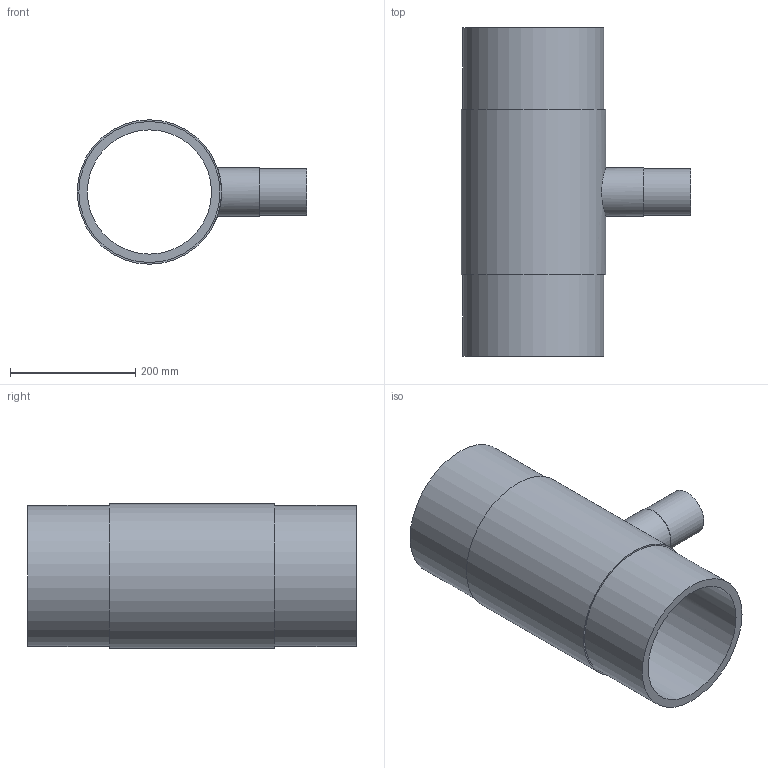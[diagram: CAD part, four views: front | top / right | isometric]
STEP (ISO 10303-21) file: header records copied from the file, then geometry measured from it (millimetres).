
FILE_DESCRIPTION(('Beschreibung'),'1');
FILE_NAME('V:/Ziel/25.20.01.063_red._SDR_17_PE100_225_075_225.STP', '2014-09-15T06:36:10',('Author'), ('Organization'), 'KCM Version 1.1.794.0', 'Kubotek KeyCreator', 'Authorization');
FILE_SCHEMA(('CONFIG_CONTROL_DESIGN'));
Length unit declared in the file: millimetre
Bounding box: 366.18 x 524 x 230.36 mm (x, y, z)
Volume: 5269758.5 mm3; surface area: 781015 mm2
Topology: 1 solids, 1 shells, 13 faces, 40 edges, 47 vertices
Faces by surface type: cylinder 7, plane 6
Full cylindrical faces by diameter (mm): 66 x1, 75 x1, 76.8 x1, 198.2 x1, 225 x2, 230.36 x1
Entity records: 750 total; most frequent: CARTESIAN_POINT 327, DIRECTION 77, ORIENTED_EDGE 48, AXIS2_PLACEMENT_3D 28, EDGE_CURVE 24, VECTOR 21, LINE 21, EDGE_LOOP 21
